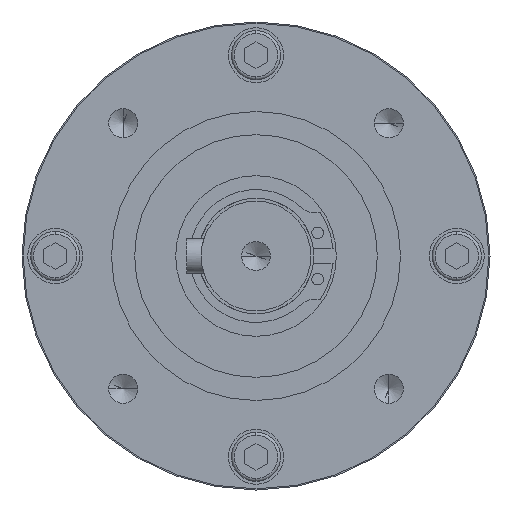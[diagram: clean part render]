
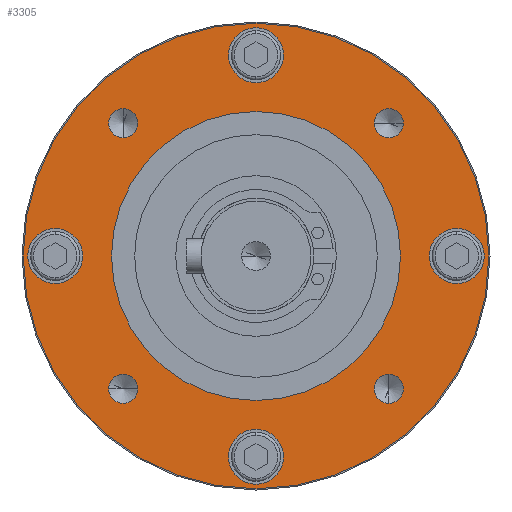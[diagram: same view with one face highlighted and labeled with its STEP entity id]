
A CAD part, left-side view. The second image highlights one B-rep face of the part: STEP entity #3305.
In plain terms, the highlighted planar face has unit normal (-1, 0, 0).
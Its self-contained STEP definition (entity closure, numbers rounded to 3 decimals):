
#68=CARTESIAN_POINT('',(-127.3,0.,0.));
#69=DIRECTION('',(1.,0.,0.));
#70=DIRECTION('',(0.,1.,0.));
#71=AXIS2_PLACEMENT_3D('',#68,#69,#70);
#91=CARTESIAN_POINT('',(-127.3,0.,0.));
#92=DIRECTION('',(-1.,0.,0.));
#93=DIRECTION('',(0.,1.,0.));
#94=AXIS2_PLACEMENT_3D('',#91,#92,#93);
#804=CARTESIAN_POINT('',(-127.3,0.,0.));
#805=DIRECTION('',(1.,0.,0.));
#806=DIRECTION('',(0.,1.,0.));
#807=AXIS2_PLACEMENT_3D('',#804,#805,#806);
#812=CARTESIAN_POINT('',(-127.3,0.,0.));
#813=DIRECTION('',(-1.,0.,0.));
#814=DIRECTION('',(0.,1.,0.));
#815=AXIS2_PLACEMENT_3D('',#812,#813,#814);
#820=CARTESIAN_POINT('',(-127.3,22.981,-22.981));
#821=DIRECTION('',(-1.,0.,0.));
#822=DIRECTION('',(0.,1.,0.));
#823=AXIS2_PLACEMENT_3D('',#820,#821,#822);
#828=CARTESIAN_POINT('',(-127.3,22.981,-22.981));
#829=DIRECTION('',(-1.,0.,0.));
#830=DIRECTION('',(0.,-1.,0.));
#831=AXIS2_PLACEMENT_3D('',#828,#829,#830);
#836=CARTESIAN_POINT('',(-127.3,22.981,22.981));
#837=DIRECTION('',(-1.,0.,0.));
#838=DIRECTION('',(0.,0.,1.));
#839=AXIS2_PLACEMENT_3D('',#836,#837,#838);
#844=CARTESIAN_POINT('',(-127.3,22.981,22.981));
#845=DIRECTION('',(-1.,0.,0.));
#846=DIRECTION('',(0.,0.,-1.));
#847=AXIS2_PLACEMENT_3D('',#844,#845,#846);
#852=CARTESIAN_POINT('',(-127.3,-22.981,22.981));
#853=DIRECTION('',(-1.,0.,0.));
#854=DIRECTION('',(0.,-1.,0.));
#855=AXIS2_PLACEMENT_3D('',#852,#853,#854);
#860=CARTESIAN_POINT('',(-127.3,-22.981,22.981));
#861=DIRECTION('',(-1.,0.,0.));
#862=DIRECTION('',(0.,1.,0.));
#863=AXIS2_PLACEMENT_3D('',#860,#861,#862);
#868=CARTESIAN_POINT('',(-127.3,-22.981,-22.981));
#869=DIRECTION('',(-1.,0.,0.));
#870=DIRECTION('',(0.,0.,-1.));
#871=AXIS2_PLACEMENT_3D('',#868,#869,#870);
#876=CARTESIAN_POINT('',(-127.3,-22.981,-22.981));
#877=DIRECTION('',(-1.,0.,0.));
#878=DIRECTION('',(0.,0.,1.));
#879=AXIS2_PLACEMENT_3D('',#876,#877,#878);
#884=CARTESIAN_POINT('',(-127.3,34.75,0.));
#885=DIRECTION('',(-1.,0.,0.));
#886=DIRECTION('',(0.,1.,0.));
#887=AXIS2_PLACEMENT_3D('',#884,#885,#886);
#892=CARTESIAN_POINT('',(-127.3,34.75,0.));
#893=DIRECTION('',(-1.,0.,0.));
#894=DIRECTION('',(0.,-1.,0.));
#895=AXIS2_PLACEMENT_3D('',#892,#893,#894);
#900=CARTESIAN_POINT('',(-127.3,0.,34.75));
#901=DIRECTION('',(-1.,0.,0.));
#902=DIRECTION('',(0.,0.,1.));
#903=AXIS2_PLACEMENT_3D('',#900,#901,#902);
#908=CARTESIAN_POINT('',(-127.3,0.,34.75));
#909=DIRECTION('',(-1.,0.,0.));
#910=DIRECTION('',(0.,0.,-1.));
#911=AXIS2_PLACEMENT_3D('',#908,#909,#910);
#916=CARTESIAN_POINT('',(-127.3,-34.75,0.));
#917=DIRECTION('',(-1.,0.,0.));
#918=DIRECTION('',(0.,-1.,0.));
#919=AXIS2_PLACEMENT_3D('',#916,#917,#918);
#924=CARTESIAN_POINT('',(-127.3,-34.75,0.));
#925=DIRECTION('',(-1.,0.,0.));
#926=DIRECTION('',(0.,1.,0.));
#927=AXIS2_PLACEMENT_3D('',#924,#925,#926);
#932=CARTESIAN_POINT('',(-127.3,0.,-34.75));
#933=DIRECTION('',(-1.,0.,0.));
#934=DIRECTION('',(0.,0.,-1.));
#935=AXIS2_PLACEMENT_3D('',#932,#933,#934);
#940=CARTESIAN_POINT('',(-127.3,0.,-34.75));
#941=DIRECTION('',(-1.,0.,0.));
#942=DIRECTION('',(0.,0.,1.));
#943=AXIS2_PLACEMENT_3D('',#940,#941,#942);
#2264=CARTESIAN_POINT('',(-127.3,25.,0.));
#2265=CARTESIAN_POINT('',(-127.3,-25.,0.));
#2266=VERTEX_POINT('',#2264);
#2267=VERTEX_POINT('',#2265);
#2278=CARTESIAN_POINT('',(-127.3,25.481,-22.981));
#2279=VERTEX_POINT('',#2278);
#2280=CARTESIAN_POINT('',(-127.3,20.481,-22.981));
#2281=VERTEX_POINT('',#2280);
#2288=CARTESIAN_POINT('',(-127.3,22.981,25.481));
#2289=CARTESIAN_POINT('',(-127.3,22.981,20.481));
#2290=VERTEX_POINT('',#2288);
#2291=VERTEX_POINT('',#2289);
#2298=CARTESIAN_POINT('',(-127.3,-25.481,22.981));
#2299=CARTESIAN_POINT('',(-127.3,-20.481,22.981));
#2300=VERTEX_POINT('',#2298);
#2301=VERTEX_POINT('',#2299);
#2308=CARTESIAN_POINT('',(-127.3,-22.981,-25.481));
#2309=CARTESIAN_POINT('',(-127.3,-22.981,-20.481));
#2310=VERTEX_POINT('',#2308);
#2311=VERTEX_POINT('',#2309);
#2316=CARTESIAN_POINT('',(-127.3,39.5,0.));
#2317=CARTESIAN_POINT('',(-127.3,30.,0.));
#2318=VERTEX_POINT('',#2316);
#2319=VERTEX_POINT('',#2317);
#2324=CARTESIAN_POINT('',(-127.3,0.,39.5));
#2325=CARTESIAN_POINT('',(-127.3,0.,30.));
#2326=VERTEX_POINT('',#2324);
#2327=VERTEX_POINT('',#2325);
#2332=CARTESIAN_POINT('',(-127.3,-39.5,0.));
#2333=CARTESIAN_POINT('',(-127.3,-30.,0.));
#2334=VERTEX_POINT('',#2332);
#2335=VERTEX_POINT('',#2333);
#2340=CARTESIAN_POINT('',(-127.3,0.,-39.5));
#2341=CARTESIAN_POINT('',(-127.3,0.,-30.));
#2342=VERTEX_POINT('',#2340);
#2343=VERTEX_POINT('',#2341);
#2345=CARTESIAN_POINT('',(-127.3,40.3,0.));
#2347=VERTEX_POINT('',#2345);
#2349=CARTESIAN_POINT('',(-127.3,-40.3,0.));
#2351=VERTEX_POINT('',#2349);
#3242=CARTESIAN_POINT('',(-127.3,0.,0.));
#3243=DIRECTION('',(1.,0.,0.));
#3244=DIRECTION('',(0.,-1.,0.));
#3245=AXIS2_PLACEMENT_3D('',#3242,#3243,#3244);
#3246=PLANE('',#3245);
#3248=ORIENTED_EDGE('',*,*,#3247,.T.);
#3250=ORIENTED_EDGE('',*,*,#3249,.F.);
#3251=EDGE_LOOP('',(#3248,#3250));
#3252=FACE_OUTER_BOUND('',#3251,.F.);
#3253=ORIENTED_EDGE('',*,*,#2650,.T.);
#3254=ORIENTED_EDGE('',*,*,#2632,.F.);
#3255=EDGE_LOOP('',(#3253,#3254));
#3256=FACE_BOUND('',#3255,.F.);
#3258=ORIENTED_EDGE('',*,*,#3257,.T.);
#3260=ORIENTED_EDGE('',*,*,#3259,.T.);
#3261=EDGE_LOOP('',(#3258,#3260));
#3262=FACE_BOUND('',#3261,.F.);
#3264=ORIENTED_EDGE('',*,*,#3263,.T.);
#3266=ORIENTED_EDGE('',*,*,#3265,.T.);
#3267=EDGE_LOOP('',(#3264,#3266));
#3268=FACE_BOUND('',#3267,.F.);
#3270=ORIENTED_EDGE('',*,*,#3269,.T.);
#3272=ORIENTED_EDGE('',*,*,#3271,.T.);
#3273=EDGE_LOOP('',(#3270,#3272));
#3274=FACE_BOUND('',#3273,.F.);
#3276=ORIENTED_EDGE('',*,*,#3275,.T.);
#3278=ORIENTED_EDGE('',*,*,#3277,.T.);
#3279=EDGE_LOOP('',(#3276,#3278));
#3280=FACE_BOUND('',#3279,.F.);
#3282=ORIENTED_EDGE('',*,*,#3281,.T.);
#3284=ORIENTED_EDGE('',*,*,#3283,.T.);
#3285=EDGE_LOOP('',(#3282,#3284));
#3286=FACE_BOUND('',#3285,.F.);
#3288=ORIENTED_EDGE('',*,*,#3287,.T.);
#3290=ORIENTED_EDGE('',*,*,#3289,.T.);
#3291=EDGE_LOOP('',(#3288,#3290));
#3292=FACE_BOUND('',#3291,.F.);
#3294=ORIENTED_EDGE('',*,*,#3293,.T.);
#3296=ORIENTED_EDGE('',*,*,#3295,.T.);
#3297=EDGE_LOOP('',(#3294,#3296));
#3298=FACE_BOUND('',#3297,.F.);
#3300=ORIENTED_EDGE('',*,*,#3299,.T.);
#3302=ORIENTED_EDGE('',*,*,#3301,.T.);
#3303=EDGE_LOOP('',(#3300,#3302));
#3304=FACE_BOUND('',#3303,.F.);
#3305=ADVANCED_FACE('',(#3252,#3256,#3262,#3268,#3274,#3280,#3286,#3292,#3298,
#3304),#3246,.F.);
#72=CIRCLE('',#71,25.);
#95=CIRCLE('',#94,25.);
#808=CIRCLE('',#807,40.3);
#816=CIRCLE('',#815,40.3);
#824=CIRCLE('',#823,2.5);
#832=CIRCLE('',#831,2.5);
#840=CIRCLE('',#839,2.5);
#848=CIRCLE('',#847,2.5);
#856=CIRCLE('',#855,2.5);
#864=CIRCLE('',#863,2.5);
#872=CIRCLE('',#871,2.5);
#880=CIRCLE('',#879,2.5);
#888=CIRCLE('',#887,4.75);
#896=CIRCLE('',#895,4.75);
#904=CIRCLE('',#903,4.75);
#912=CIRCLE('',#911,4.75);
#920=CIRCLE('',#919,4.75);
#928=CIRCLE('',#927,4.75);
#936=CIRCLE('',#935,4.75);
#944=CIRCLE('',#943,4.75);
#2632=EDGE_CURVE('',#2266,#2267,#72,.T.);
#2650=EDGE_CURVE('',#2266,#2267,#95,.T.);
#3247=EDGE_CURVE('',#2347,#2351,#808,.T.);
#3249=EDGE_CURVE('',#2347,#2351,#816,.T.);
#3257=EDGE_CURVE('',#2279,#2281,#824,.T.);
#3259=EDGE_CURVE('',#2281,#2279,#832,.T.);
#3263=EDGE_CURVE('',#2290,#2291,#840,.T.);
#3265=EDGE_CURVE('',#2291,#2290,#848,.T.);
#3269=EDGE_CURVE('',#2300,#2301,#856,.T.);
#3271=EDGE_CURVE('',#2301,#2300,#864,.T.);
#3275=EDGE_CURVE('',#2310,#2311,#872,.T.);
#3277=EDGE_CURVE('',#2311,#2310,#880,.T.);
#3281=EDGE_CURVE('',#2318,#2319,#888,.T.);
#3283=EDGE_CURVE('',#2319,#2318,#896,.T.);
#3287=EDGE_CURVE('',#2326,#2327,#904,.T.);
#3289=EDGE_CURVE('',#2327,#2326,#912,.T.);
#3293=EDGE_CURVE('',#2334,#2335,#920,.T.);
#3295=EDGE_CURVE('',#2335,#2334,#928,.T.);
#3299=EDGE_CURVE('',#2342,#2343,#936,.T.);
#3301=EDGE_CURVE('',#2343,#2342,#944,.T.);
